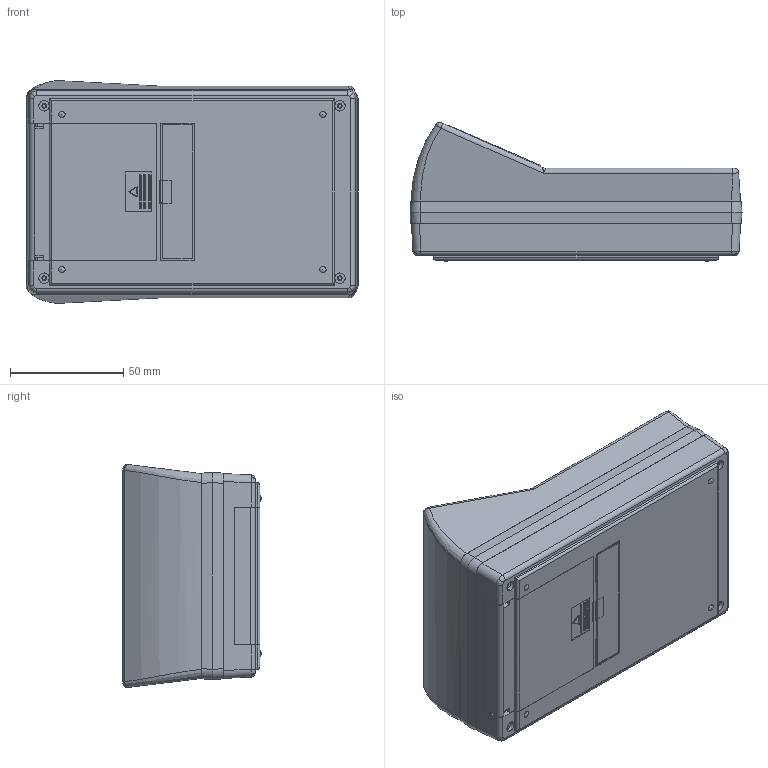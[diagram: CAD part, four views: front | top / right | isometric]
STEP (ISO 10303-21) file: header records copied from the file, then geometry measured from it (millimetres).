
FILE_DESCRIPTION (( 'STEP AP214' ), '1' );
FILE_NAME ('90-52-3A-E-R.STEP', '2020-10-15T16:03:47', ( 'Rudy' ), ( '' ), 'SwSTEP 2.0', 'SolidWorks 2014', '' );
FILE_SCHEMA (( 'AUTOMOTIVE_DESIGN' ));
Length unit declared in the file: millimetre
Products named in the file (7): 90 PCB 3AA; 3AAdoor; 90-bessel; Top Angled LCD; 90 Angle LCD expander; 90-3AA Shallow; 90-52-3A-E-R
Assembly tree (6 placements, depth 2):
  90-52-3A-E-R
    90-3AA Shallow
    90 Angle LCD expander
    Top Angled LCD
    90-bessel
    3AAdoor
    90 PCB 3AA
Bounding box: 146.8 x 61.32 x 98.54 mm (x, y, z)
Volume: 153251.9 mm3; surface area: 135669.6 mm2
Topology: 6 solids, 6 shells, 808 faces, 2169 edges, 1398 vertices
Faces by surface type: plane 521, cylinder 181, cone 52, torus 24, bspline 20, sphere 10
Entity records: 26312 total; most frequent: CARTESIAN_POINT 5845, ORIENTED_EDGE 4298, DIRECTION 4049, EDGE_CURVE 2149, VECTOR 1569, LINE 1569, VERTEX_POINT 1390, AXIS2_PLACEMENT_3D 1240
